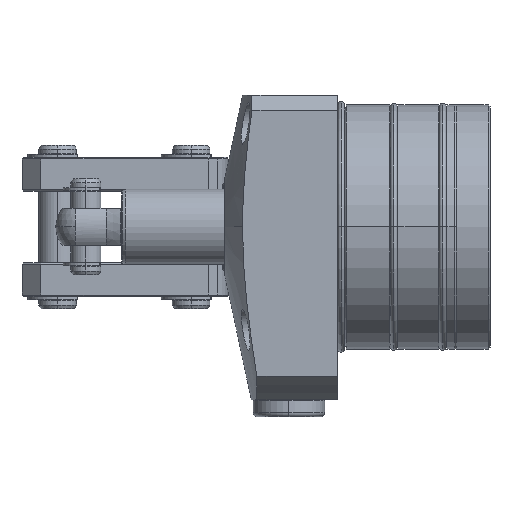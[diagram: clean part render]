
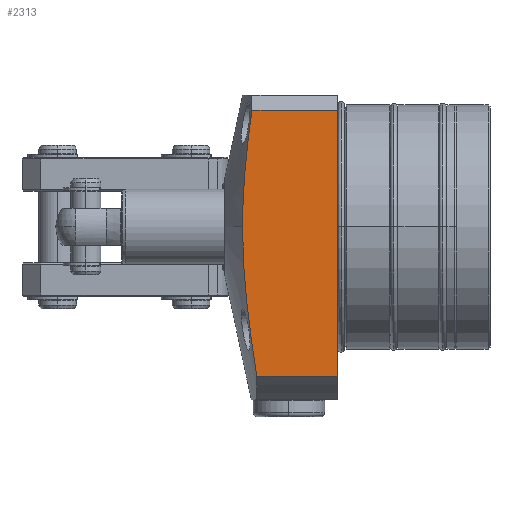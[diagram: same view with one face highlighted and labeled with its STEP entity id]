
A CAD part, top view. The second image highlights one B-rep face of the part: STEP entity #2313.
In plain terms, the highlighted planar face has unit normal (0, 0, 1).
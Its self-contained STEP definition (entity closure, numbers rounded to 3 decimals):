
#1474=B_SPLINE_CURVE_WITH_KNOTS('',3,(#12861,#12862,#12863,#12864),
 .UNSPECIFIED.,.F.,.F.,(4,4),(0.,1.),.UNSPECIFIED.);
#1501=B_SPLINE_CURVE_WITH_KNOTS('',3,(#13345,#13346,#13347,#13348),
 .UNSPECIFIED.,.F.,.F.,(4,4),(0.,1.),.UNSPECIFIED.);
#1972=PLANE('',#8865);
#2313=ADVANCED_FACE('',(#2866),#1972,.F.);
#2866=FACE_OUTER_BOUND('',#3298,.T.);
#3298=EDGE_LOOP('',(#5515,#5516,#5517,#5518,#5519));
#3764=LINE('',#13312,#4132);
#3772=LINE('',#13342,#4140);
#3773=LINE('',#13344,#4141);
#4132=VECTOR('',#10799,1.);
#4140=VECTOR('',#10829,1.);
#4141=VECTOR('',#10832,1.);
#5515=ORIENTED_EDGE('',*,*,#7458,.F.);
#5516=ORIENTED_EDGE('',*,*,#7457,.T.);
#5517=ORIENTED_EDGE('',*,*,#7359,.T.);
#5518=ORIENTED_EDGE('',*,*,#7459,.T.);
#5519=ORIENTED_EDGE('',*,*,#7442,.F.);
#6543=VERTEX_POINT('',#12860);
#6544=VERTEX_POINT('',#12865);
#6610=VERTEX_POINT('',#13311);
#6611=VERTEX_POINT('',#13313);
#6616=VERTEX_POINT('',#13341);
#7359=EDGE_CURVE('',#6544,#6543,#1474,.T.);
#7442=EDGE_CURVE('',#6610,#6611,#3764,.T.);
#7457=EDGE_CURVE('',#6616,#6544,#3772,.T.);
#7458=EDGE_CURVE('',#6616,#6610,#3773,.T.);
#7459=EDGE_CURVE('',#6543,#6611,#1501,.T.);
#8865=AXIS2_PLACEMENT_3D('',#13349,#10833,#10834);
#10799=DIRECTION('',(-1.,0.,0.));
#10829=DIRECTION('',(-1.,0.,0.));
#10832=DIRECTION('',(0.,-1.,0.));
#10833=DIRECTION('',(0.,0.,-1.));
#10834=DIRECTION('',(0.,-1.,0.));
#12860=CARTESIAN_POINT('',(-25.336,0.,35.));
#12861=CARTESIAN_POINT('',(-22.837,31.,35.));
#12862=CARTESIAN_POINT('',(-24.287,20.716,35.));
#12863=CARTESIAN_POINT('',(-25.336,10.4,35.));
#12864=CARTESIAN_POINT('',(-25.336,0.,35.));
#12865=CARTESIAN_POINT('',(-22.837,31.,35.));
#13311=CARTESIAN_POINT('',(0.,-39.799,35.));
#13312=CARTESIAN_POINT('',(31.5,-39.799,35.));
#13313=CARTESIAN_POINT('',(-21.51,-39.799,35.));
#13341=CARTESIAN_POINT('',(0.,31.,35.));
#13342=CARTESIAN_POINT('',(31.501,31.,35.));
#13344=CARTESIAN_POINT('',(0.,31.,35.));
#13345=CARTESIAN_POINT('',(-25.336,0.,35.));
#13346=CARTESIAN_POINT('',(-25.336,-13.38,35.));
#13347=CARTESIAN_POINT('',(-23.615,-26.613,35.));
#13348=CARTESIAN_POINT('',(-21.51,-39.799,35.));
#13349=CARTESIAN_POINT('',(31.501,31.,35.));
